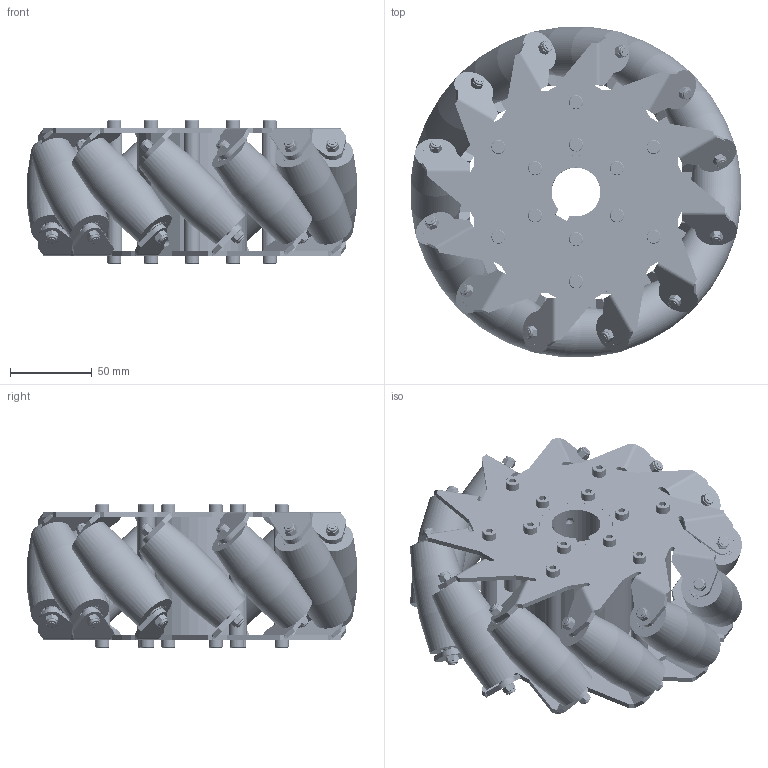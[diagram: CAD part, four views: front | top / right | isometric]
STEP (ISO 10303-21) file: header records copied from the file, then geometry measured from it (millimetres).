
FILE_DESCRIPTION (( 'STEP AP203' ), '1' );
FILE_NAME ('8寸45度12分车轮-3D总装(大孔径版).STEP', '2014-10-21T02:45:27', ( 'Sky123.Org' ), ( 'Sky123.Org' ), 'SwSTEP 2.0', 'SolidWorks 2010', '' );
FILE_SCHEMA (( 'CONFIG_CONTROL_DESIGN' ));
Length unit declared in the file: millimetre
Products named in the file (12): 滅侂蹟譫M4; 8寸45度中心件大孔径版; 8寸45度12分车轮-铝棒(A版); 8寸45度12分车轮-3D总装(大孔径版); 8寸45度12分车轮-轮片(大孔径版版); 囀鞠褒蹟佪(M5X12); す菜朴4; 8寸45度12分车轮-小轮子组合(A版); 8寸45度12分车轮-寸轮子(A版); 8寸45度12分车轮-小轮子固定轴(A版); 旮僱⑩粣創(625ZZ); 8寸45度12分车轮-轮片组合(大孔径版版)
Assembly tree (42 placements, depth 3):
  8寸45度12分车轮-3D总装(大孔径版)
    8寸45度12分车轮-小轮子组合(A版)  x12
      8寸45度12分车轮-寸轮子(A版)
      す菜朴4
      旮僱⑩粣創(625ZZ)
      8寸45度12分车轮-小轮子固定轴(A版)
      滅侂蹟譫M4
    8寸45度12分车轮-铝棒(A版)  x6
    8寸45度12分车轮-轮片组合(大孔径版版)  x2
      囀鞠褒蹟佪(M5X12)
      8寸45度12分车轮-轮片(大孔径版版)
    8寸45度中心件大孔径版
Bounding box: 202.54 x 202.54 x 88 mm (x, y, z)
Volume: 901323.8 mm3; surface area: 319647.1 mm2
Topology: 345 solids, 345 shells, 3355 faces, 7781 edges, 4852 vertices
Faces by surface type: cylinder 1058, plane 1021, torus 600, sphere 384, cone 268, bspline 24
Entity records: 16221 total; most frequent: CARTESIAN_POINT 3057, DIRECTION 2443, ORIENTED_EDGE 2178, EDGE_CURVE 1089, AXIS2_PLACEMENT_3D 936, VERTEX_POINT 686, LINE 571, VECTOR 571
